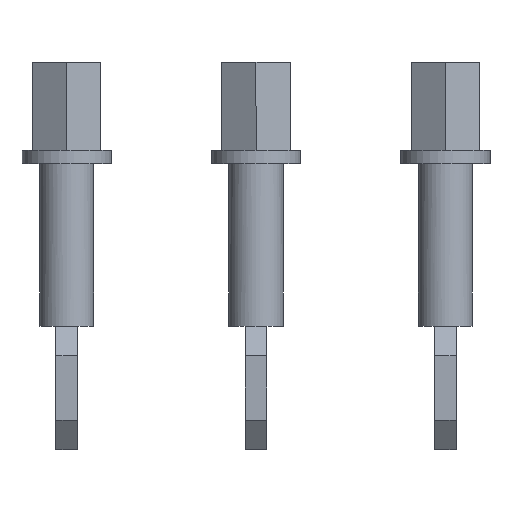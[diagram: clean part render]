
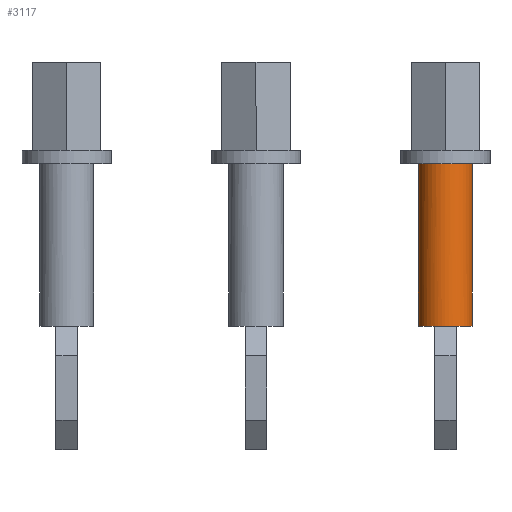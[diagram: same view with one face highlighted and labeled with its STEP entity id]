
A CAD part, front view. The second image highlights one B-rep face of the part: STEP entity #3117.
In plain terms, the highlighted cylindrical face has radius 5 mm (diameter 10 mm), a partial arc.
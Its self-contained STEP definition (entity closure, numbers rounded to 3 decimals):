
#76 = ORIENTED_EDGE ( 'NONE', *, *, #6053, .F. ) ;
#130 = ORIENTED_EDGE ( 'NONE', *, *, #6429, .F. ) ;
#460 = AXIS2_PLACEMENT_3D ( 'NONE', #7831, #7226, #6553 ) ;
#500 = EDGE_CURVE ( 'NONE', #6222, #3834, #6846, .T. ) ;
#568 = CARTESIAN_POINT ( 'NONE',  ( 40., -70., -31.15 ) ) ;
#692 = CIRCLE ( 'NONE', #719, 5. ) ;
#719 = AXIS2_PLACEMENT_3D ( 'NONE', #6728, #7996, #5531 ) ;
#817 = DIRECTION ( 'NONE',  ( 0., 0., -1. ) ) ;
#862 = DIRECTION ( 'NONE',  ( 0., 0., -1. ) ) ;
#939 = EDGE_LOOP ( 'NONE', ( #7545, #6938, #3186, #7475, #130, #76, #3562 ) ) ;
#1113 = CIRCLE ( 'NONE', #3346, 5. ) ;
#1306 = CIRCLE ( 'NONE', #2742, 5. ) ;
#1358 = DIRECTION ( 'NONE',  ( 0., 0., -1. ) ) ;
#1515 = VECTOR ( 'NONE', #817, 1000. ) ;
#1570 = EDGE_CURVE ( 'NONE', #6239, #3182, #7274, .T. ) ;
#1665 = AXIS2_PLACEMENT_3D ( 'NONE', #1907, #4369, #5028 ) ;
#1907 = CARTESIAN_POINT ( 'NONE',  ( 35., -70., -31.15 ) ) ;
#2195 = DIRECTION ( 'NONE',  ( 1., 0., 0. ) ) ;
#2418 = DIRECTION ( 'NONE',  ( 1., 0., 0. ) ) ;
#2550 = CARTESIAN_POINT ( 'NONE',  ( 30., -70., 1.35 ) ) ;
#2742 = AXIS2_PLACEMENT_3D ( 'NONE', #3415, #1358, #2418 ) ;
#3117 = ADVANCED_FACE ( 'NONE', ( #3598 ), #3193, .T. ) ;
#3182 = VERTEX_POINT ( 'NONE', #568 ) ;
#3185 = EDGE_CURVE ( 'NONE', #5763, #6222, #692, .T. ) ;
#3186 = ORIENTED_EDGE ( 'NONE', *, *, #500, .F. ) ;
#3193 = CYLINDRICAL_SURFACE ( 'NONE', #5379, 5. ) ;
#3346 = AXIS2_PLACEMENT_3D ( 'NONE', #4679, #7810, #2195 ) ;
#3415 = CARTESIAN_POINT ( 'NONE',  ( 35., -70., -31.15 ) ) ;
#3527 = CARTESIAN_POINT ( 'NONE',  ( 33., -74.583, -31.15 ) ) ;
#3537 = CARTESIAN_POINT ( 'NONE',  ( 37., -74.583, -31.15 ) ) ;
#3562 = ORIENTED_EDGE ( 'NONE', *, *, #1570, .F. ) ;
#3598 = FACE_OUTER_BOUND ( 'NONE', #939, .T. ) ;
#3834 = VERTEX_POINT ( 'NONE', #4490 ) ;
#4032 = VECTOR ( 'NONE', #862, 1000. ) ;
#4369 = DIRECTION ( 'NONE',  ( 0., 0., -1. ) ) ;
#4490 = CARTESIAN_POINT ( 'NONE',  ( 30., -70., -31.15 ) ) ;
#4502 = VERTEX_POINT ( 'NONE', #6623 ) ;
#4679 = CARTESIAN_POINT ( 'NONE',  ( 35., -70., -1.15 ) ) ;
#4759 = EDGE_CURVE ( 'NONE', #6239, #4502, #1113, .T. ) ;
#4839 = CARTESIAN_POINT ( 'NONE',  ( 35., -75., -31.15 ) ) ;
#5028 = DIRECTION ( 'NONE',  ( 1., 0., 0. ) ) ;
#5225 = CIRCLE ( 'NONE', #460, 5. ) ;
#5379 = AXIS2_PLACEMENT_3D ( 'NONE', #7808, #7833, #7255 ) ;
#5453 = LINE ( 'NONE', #2550, #1515 ) ;
#5531 = DIRECTION ( 'NONE',  ( 1., 0., 0. ) ) ;
#5592 = EDGE_CURVE ( 'NONE', #4502, #3834, #5453, .T. ) ;
#5763 = VERTEX_POINT ( 'NONE', #4839 ) ;
#6053 = EDGE_CURVE ( 'NONE', #3182, #6106, #5225, .T. ) ;
#6106 = VERTEX_POINT ( 'NONE', #3537 ) ;
#6222 = VERTEX_POINT ( 'NONE', #3527 ) ;
#6239 = VERTEX_POINT ( 'NONE', #6700 ) ;
#6429 = EDGE_CURVE ( 'NONE', #6106, #5763, #1306, .T. ) ;
#6553 = DIRECTION ( 'NONE',  ( 1., 0., 0. ) ) ;
#6623 = CARTESIAN_POINT ( 'NONE',  ( 30., -70., -1.15 ) ) ;
#6700 = CARTESIAN_POINT ( 'NONE',  ( 40., -70., -1.15 ) ) ;
#6728 = CARTESIAN_POINT ( 'NONE',  ( 35., -70., -31.15 ) ) ;
#6846 = CIRCLE ( 'NONE', #1665, 5. ) ;
#6938 = ORIENTED_EDGE ( 'NONE', *, *, #5592, .T. ) ;
#6990 = CARTESIAN_POINT ( 'NONE',  ( 40., -70., 1.35 ) ) ;
#7226 = DIRECTION ( 'NONE',  ( 0., 0., -1. ) ) ;
#7255 = DIRECTION ( 'NONE',  ( 1., 0., 0. ) ) ;
#7274 = LINE ( 'NONE', #6990, #4032 ) ;
#7475 = ORIENTED_EDGE ( 'NONE', *, *, #3185, .F. ) ;
#7545 = ORIENTED_EDGE ( 'NONE', *, *, #4759, .T. ) ;
#7808 = CARTESIAN_POINT ( 'NONE',  ( 35., -70., 1.35 ) ) ;
#7810 = DIRECTION ( 'NONE',  ( 0., 0., -1. ) ) ;
#7831 = CARTESIAN_POINT ( 'NONE',  ( 35., -70., -31.15 ) ) ;
#7833 = DIRECTION ( 'NONE',  ( 0., 0., -1. ) ) ;
#7996 = DIRECTION ( 'NONE',  ( 0., 0., -1. ) ) ;
